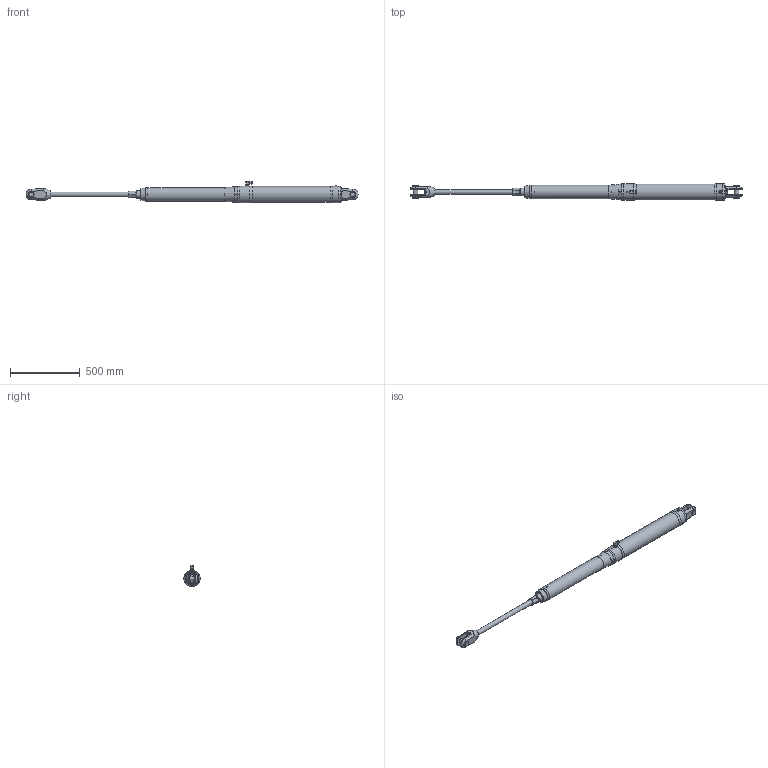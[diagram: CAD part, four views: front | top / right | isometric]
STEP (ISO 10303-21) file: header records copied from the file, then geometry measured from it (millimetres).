
FILE_DESCRIPTION(/* description */ (''),/* implementation_level */ '2;1');
FILE_NAME(/* name */ 'Q:\AA BRAND HYDRAULICS\HYDRAULICS FAMILY DIRECTORY\HYDRAULICS\CYLINDERS\MECHANICAL LOCK RAMS\ALUMINIUM - STAINLESS SINGLE ACTING (-0012 To -0150)\MSA-0060-S0550-NP-71\MSA-0060-S0550-NP-71 (Open).stp',/* time_stamp */ '2018-04-25T16:49:11+01:00',/* author */ ('Lorena'),/* organization */ (''),/* preprocessor_version */ 'ST-DEVELOPER v17',/* originating_system */ 'Autodesk Inventor 2018',/* authorisation */ '');
FILE_SCHEMA (('AUTOMOTIVE_DESIGN { 1 0 10303 214 3 1 1 }'));
Length unit declared in the file: millimetre
Products named in the file (1): MSA-0060-S0550-NP-71 (Open)
Bounding box: 2374.15 x 117.4 x 152.95 mm (x, y, z)
Volume: 14811489.6 mm3; surface area: 702046.5 mm2
Topology: 2 solids, 4 shells, 493 faces, 1293 edges, 842 vertices
Faces by surface type: plane 279, cone 124, cylinder 76, torus 6, bspline 4, sphere 4
Full cylindrical faces by diameter (mm): 4 x1, 4.134 x1, 4.2 x2, 5 x2, 6 x4, 7 x1, 7.5 x1, 8.1 x1, 9 x1, 10 x2, 14 x1, 14.35 x1, 14.662 x1, 15 x2, 15.662 x1, 16.662 x2, 18 x2, 20 x2, 21.4 x3, 25 x1, 31.75 x2, 34.25 x1, 39.688 x2, 53 x2, 54 x2, 57 x1, 98 x1, 114.4 x1, 117.4 x4
Entity records: 16694 total; most frequent: CARTESIAN_POINT 4179, ORIENTED_EDGE 2566, DIRECTION 2496, EDGE_CURVE 1283, AXIS2_PLACEMENT_3D 958, VERTEX_POINT 842, LINE 580, VECTOR 580
